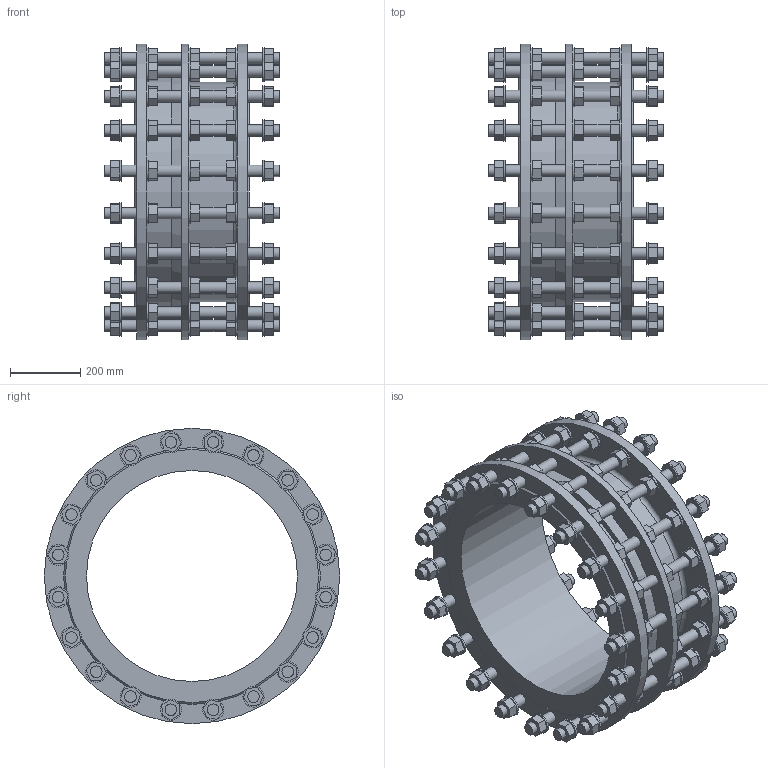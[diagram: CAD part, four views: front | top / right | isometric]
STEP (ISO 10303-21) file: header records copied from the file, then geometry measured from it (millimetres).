
FILE_DESCRIPTION (( 'STEP AP203' ), '1' );
FILE_NAME ('O_265_910_DN600_1XXXXX00_L=325_REV01.step', '2024-10-11T10:44:16', ( '' ), ( '' ), 'SwSTEP 2.0', 'SolidWorks 2022', '' );
FILE_SCHEMA (( 'CONFIG_CONTROL_DESIGN' ));
Length unit declared in the file: millimetre
Products named in the file (1): O_265_910_DN600_1XXXXX00_L=325_REV01
Bounding box: 500 x 840 x 840 mm (x, y, z)
Volume: 44847273.9 mm3; surface area: 3928495.2 mm2
Topology: 1 solids, 1 shells, 1160 faces, 2750 edges, 1883 vertices
Faces by surface type: plane 928, cylinder 228, cone 3, torus 1
Full cylindrical faces by diameter (mm): 33 x120, 60 x100, 600 x1, 624 x1, 664 x1, 840 x3
Entity records: 31090 total; most frequent: CARTESIAN_POINT 5264, DIRECTION 5155, ORIENTED_EDGE 4740, EDGE_CURVE 2370, VECTOR 1907, LINE 1907, EDGE_LOOP 1763, VERTEX_POINT 1733
